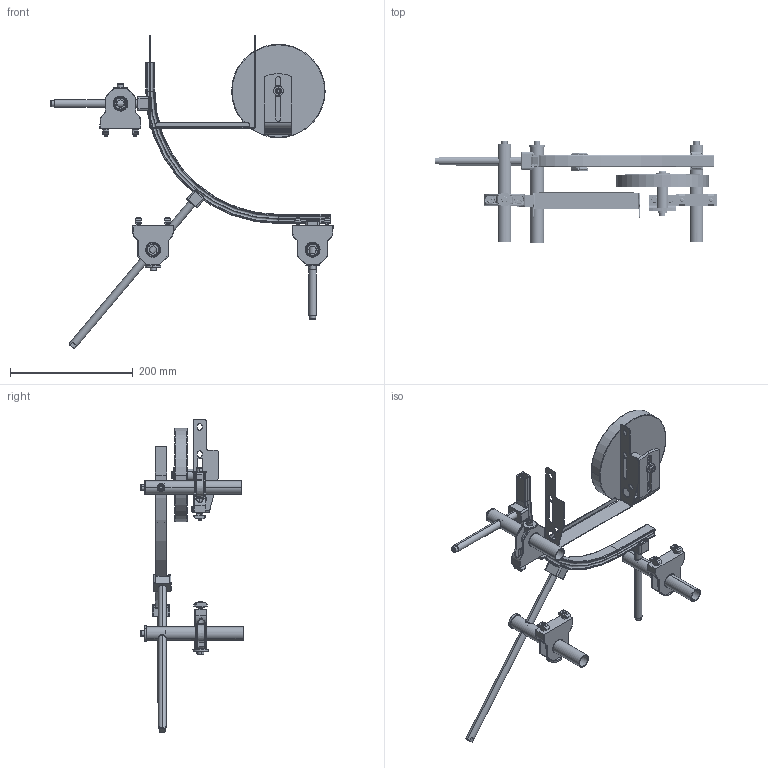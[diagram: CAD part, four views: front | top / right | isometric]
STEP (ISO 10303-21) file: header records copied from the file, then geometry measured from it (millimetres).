
FILE_DESCRIPTION((''),'2;1');
FILE_NAME('206524-06_ASM','2016-06-10T',('adam.dellomodarme'),(''),'PRO/ENGINEER BY PARAMETRIC TECHNOLOGY CORPORATION, 2012420','PRO/ENGINEER BY PARAMETRIC TECHNOLOGY CORPORATION, 2012420','');
FILE_SCHEMA(('CONFIG_CONTROL_DESIGN'));
Length unit declared in the file: inch
Products named in the file (32): 234007M; 206397_206397; 807-920; 206381_206381; 9206XXM_920614M; 9206XXM_9206150M; 206383_X26128; 206685; 206380; 807-2859_91760A321; 911-709_91090A107; 206386; 206382_HEX; 990601M; 206385_0_875OD; X26235_206686-2_ASM; 9206XXM_920616M; 915-218; 200830M; 207138-WW_6; 234006; 234003M; 234013M; 911-710_911-710; 9706XXM_970620M; 207139_207139-06A_ASM; 207125-WW_207125-06; 605279P; X26235_206686-1_ASM; 234005M; ASM0001_ASM; 206524-06_ASM
Assembly tree (73 placements, depth 4):
  206524-06_ASM
    ASM0001_ASM
      234007M
      X26235_206686-2_ASM
        206397_206397
        807-920  x2
        206381_206381
        9206XXM_920614M  x2
        9206XXM_9206150M
        206383_X26128
        206685  x2
        206380
        807-2859_91760A321  x2
        911-709_91090A107  x2
        206386
        206382_HEX
        990601M
        206385_0_875OD
      9206XXM_920616M
      915-218
      200830M
      207138-WW_6
      234006
      234003M
      207139_207139-06A_ASM
        206381_206381
        807-920  x2
        206382_HEX
        206685  x2
        234013M
        911-710_911-710  x2
        206380
        990601M
        206385_0_875OD
        9206XXM_920614M  x2
        807-2859_91760A321  x2
        206397_206397
        206383_X26128
        9706XXM_970620M
      9206XXM_920614M  x2
      207125-WW_207125-06
      605279P
      X26235_206686-1_ASM
        911-709_91090A107  x2
        990601M
        206385_0_875OD
        9206XXM_920614M  x2
        807-920  x2
        206397_206397
        206381_206381
        9206XXM_9206150M
        206383_X26128
        206685  x2
        206380
        807-2859_91760A321  x2
        206386
        206382_HEX
      234005M
Bounding box: 460.01 x 166.66 x 511.61 mm (x, y, z)
Volume: 741304.1 mm3; surface area: 361317.3 mm2
Topology: 69 solids, 69 shells, 3481 faces, 8771 edges, 5318 vertices
Faces by surface type: cylinder 1427, plane 791, bspline 480, cone 474, torus 219, sphere 78, extrusion 12
Entity records: 70251 total; most frequent: CARTESIAN_POINT 41152, ORIENTED_EDGE 6076, DIRECTION 5735, EDGE_CURVE 3038, AXIS2_PLACEMENT_3D 2257, VERTEX_POINT 1860, EDGE_LOOP 1322, FACE_OUTER_BOUND 1238
